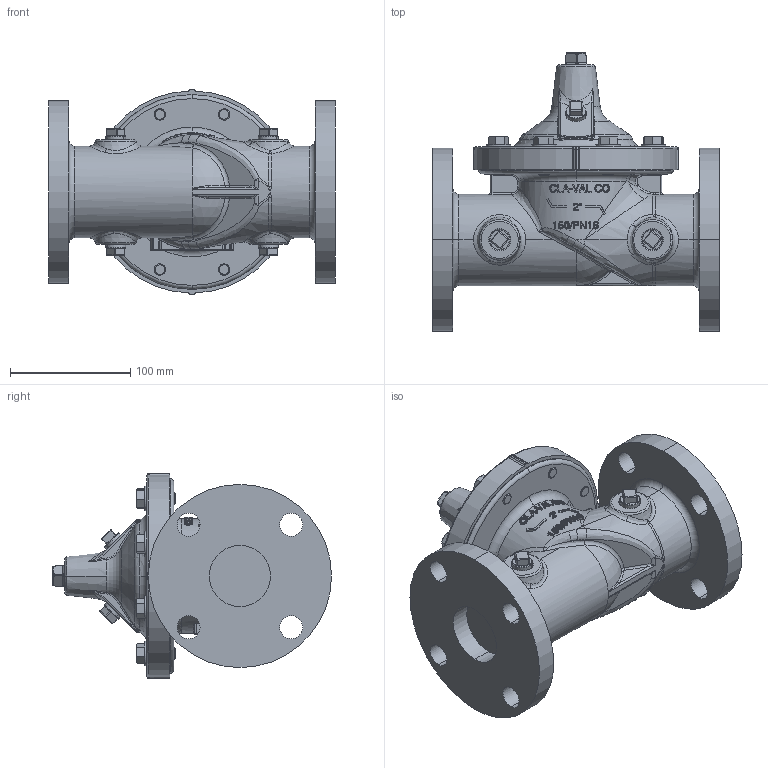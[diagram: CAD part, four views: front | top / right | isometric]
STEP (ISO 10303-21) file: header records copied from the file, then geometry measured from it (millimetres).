
FILE_DESCRIPTION (( 'STEP AP203' ), '1' );
FILE_NAME ('2in Hytrol 150AG.STEP', '2017-04-05T21:44:03', ( '' ), ( '' ), 'SwSTEP 2.0', 'SolidWorks 2017', '' );
FILE_SCHEMA (( 'CONFIG_CONTROL_DESIGN' ));
Length unit declared in the file: inch
Products named in the file (7): WASHER FOR .375 SCREW (67748)_.375N   67748-04G; 2in Hytrol 150AG; 2in Body HyGl150A STD_150 FLAT FACE; 2in Cover (no core) 100-01_No Spotface; Bolt .375-16 UNC  (67605)_1.00   67605-05F; .375 NPT SQ HD PIPE PLUG (67660)_STEEL CP (FORGED); .500 NPT SQ HD PIPE PLUG (67660)_STEEL CP (FORGED)
Assembly tree (25 placements, depth 2):
  2in Hytrol 150AG
    2in Body HyGl150A STD_150 FLAT FACE
    2in Cover (no core) 100-01_No Spotface
    Bolt .375-16 UNC  (67605)_1.00   67605-05F  x8
    .375 NPT SQ HD PIPE PLUG (67660)_STEEL CP (FORGED)  x6
    .500 NPT SQ HD PIPE PLUG (67660)_STEEL CP (FORGED)
    WASHER FOR .375 SCREW (67748)_.375N   67748-04G  x8
Bounding box: 238.25 x 232.16 x 171.17 mm (x, y, z)
Volume: 2366962.4 mm3; surface area: 284432.7 mm2
Topology: 25 solids, 26 shells, 1426 faces, 3409 edges, 2033 vertices
Faces by surface type: cylinder 380, bspline 353, plane 336, cone 160, torus 124, sphere 73
Entity records: 52414 total; most frequent: CARTESIAN_POINT 27377, ORIENTED_EDGE 5452, DIRECTION 4372, EDGE_CURVE 2726, AXIS2_PLACEMENT_3D 1832, VERTEX_POINT 1668, EDGE_LOOP 1216, FACE_OUTER_BOUND 1126
